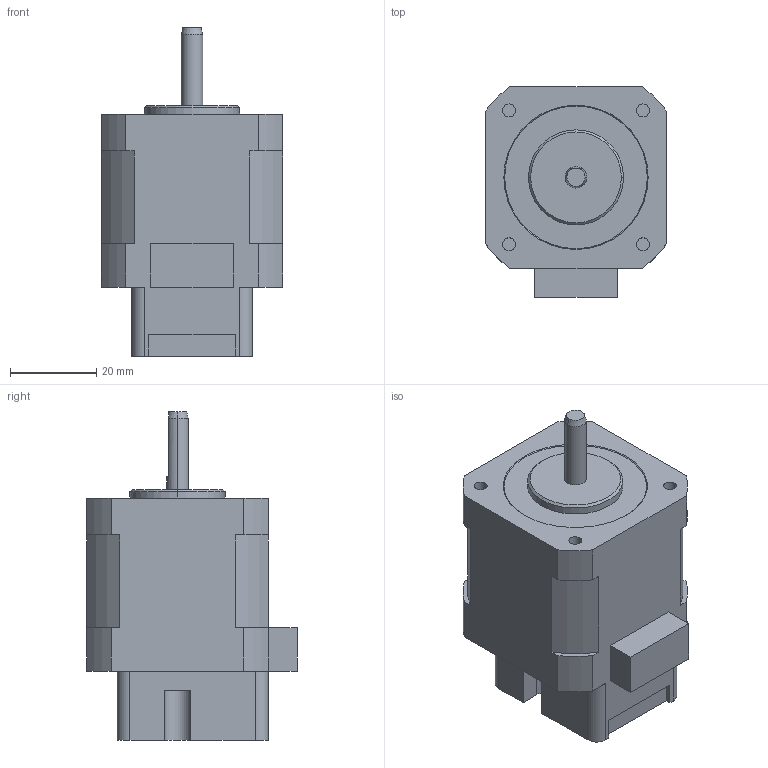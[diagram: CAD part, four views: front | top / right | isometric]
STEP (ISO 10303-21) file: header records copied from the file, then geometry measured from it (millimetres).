
FILE_DESCRIPTION (( 'STEP AP203' ), '1' );
FILE_NAME ('P-PMSA-U42D2LE-NL_3D.STEP', '2020-02-04T02:08:30', ( '' ), ( '' ), 'SwSTEP 2.0', 'SolidWorks 2018', '' );
FILE_SCHEMA (( 'CONFIG_CONTROL_DESIGN' ));
Length unit declared in the file: millimetre
Products named in the file (1): P-PMSA-U42D2LE-NL_3D
Bounding box: 42 x 48.7 x 76 mm (x, y, z)
Volume: 83952.3 mm3; surface area: 12803.3 mm2
Topology: 1 solids, 1 shells, 80 faces, 206 edges, 136 vertices
Faces by surface type: plane 42, cylinder 31, cone 7
Entity records: 2538 total; most frequent: DIRECTION 439, CARTESIAN_POINT 437, ORIENTED_EDGE 412, EDGE_CURVE 206, AXIS2_PLACEMENT_3D 154, VERTEX_POINT 136, LINE 131, VECTOR 131
